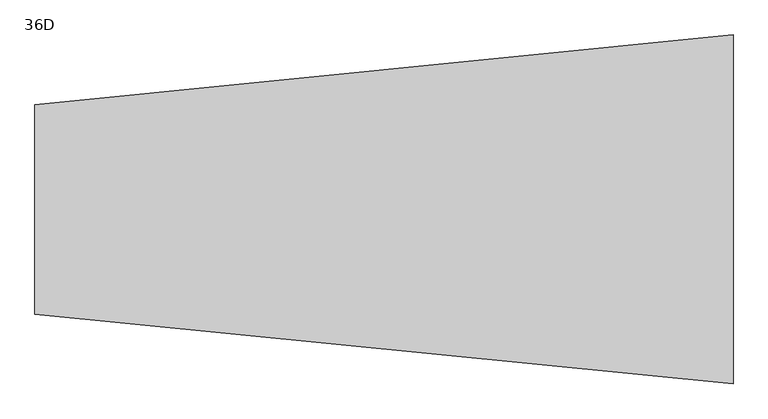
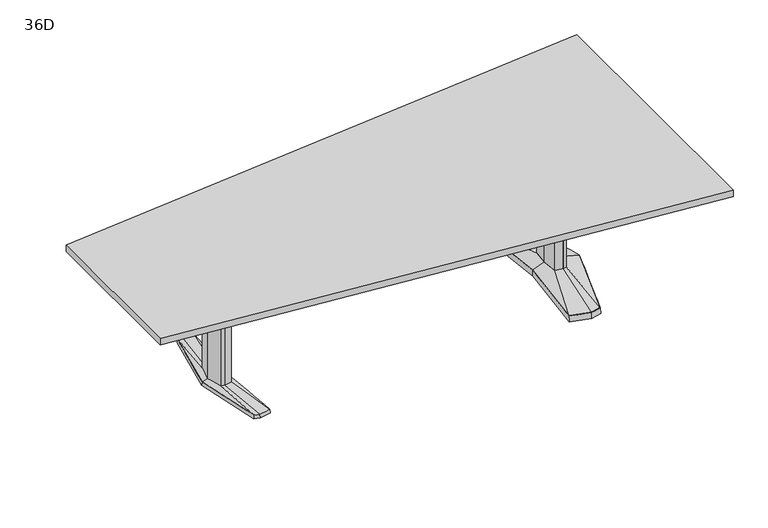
"""IFC4 building model written with IfcOpenShell, lengths in millimetres: furniture geometry, Coalesse_AM_Table_Conference_ETable2_Trapezoid_10ft_AluminiumBase : 36D."""

from ifc_helpers import new_model, si_unit, frame, origin, place, context, project, spatial, polyline, outline, extrude, faceted_brep, source, transform, mapped, element, save
from ifc_brep_helpers import plane_surface, spline_surface, advanced_brep


def furniture_36d_131f7e5c(model_context):
    return source(origin(), model_context, "Body", "SolidModel", [
        faceted_brep([(905.8306835, 455.5848221, 38.1), (796.2531277, 426.2263816, 38.1), (837.4163717, 0.0, 38.1), (796.2531277, -426.2263816, 38.1), (905.8306835, -455.5848221, 38.1), (961.9570396, -440.5478297, 38.1), (1099.2684269, 0.0, 38.1), (961.9570396, 440.5478297, 38.1), (905.8306754, 457.2283104, 3.175), (963.2124472, 441.8549756, 3.175), (1100.93125, 0.0, 3.175), (963.2124472, -441.8549756, 3.175), (905.8306754, -457.2283104, 3.175), (794.54375, -427.4118891, 3.175), (835.8214856, 0.0, 3.175), (794.54375, 427.4118891, 3.175), (909.420115, 428.3273875, 3.175), (804.3718228, 402.1057253, 3.175), (812.490518, 377.985069, 3.175), (913.0095466, 401.0699529, 3.175), (963.5691725, 387.524361, 3.175), (962.7631061, 414.0360954, 3.175), (909.420115, -428.3273875, 3.175), (962.7631061, -414.0360954, 3.175), (963.5691725, -387.524361, 3.175), (913.0095466, -401.0699529, 3.175), (812.490518, -377.985069, 3.175), (804.3718228, -402.1057253, 3.175), (1036.0153621, 0.0, 3.175), (1003.7459611, 120.4193755, 3.175), (955.0987222, 133.471665, 3.175), (875.2180526, 119.4176561, 3.175), (864.0868466, 0.0, 3.175), (875.2180526, -119.4176561, 3.175), (955.0987222, -133.471665, 3.175), (1003.7459611, -120.4193755, 3.175), (909.420115, 428.3273875, 0.0), (962.7631061, 414.0360954, 0.0), (963.5691725, 387.524361, 0.0), (913.0095466, 401.0699529, 0.0), (812.490518, 377.985069, 0.0), (804.3718228, 402.1057253, 0.0), (909.420115, -428.3273875, 0.0), (804.3718228, -402.1057253, 0.0), (812.490518, -377.985069, 0.0), (913.0095466, -401.0699529, 0.0), (963.5691725, -387.524361, 0.0), (962.7631061, -414.0360954, 0.0), (1036.0153621, 0.0, 0.0), (1003.7459611, -120.4193755, 0.0), (955.0987222, -133.471665, 0.0), (875.2180526, -119.4176561, 0.0), (864.0868466, 0.0, 0.0), (875.2180526, 119.4176561, 0.0), (955.0987222, 133.471665, 0.0), (1003.7459611, 120.4193755, 0.0)], [[[0, 1, 2, 3, 4, 5, 6, 7]], [[8, 9, 10, 11, 12, 13, 14, 15], [16, 17, 18, 19, 20, 21], [22, 23, 24, 25, 26, 27], [28, 29, 30, 31, 32, 33, 34, 35]], [[7, 9, 8, 0]], [[6, 10, 9, 7]], [[5, 11, 10, 6]], [[4, 12, 11, 5]], [[3, 13, 12, 4]], [[2, 14, 13, 3]], [[1, 15, 14, 2]], [[0, 8, 15, 1]], [[36, 37, 38, 39, 40, 41]], [[42, 43, 44, 45, 46, 47]], [[48, 49, 50, 51, 52, 53, 54, 55]], [[36, 16, 21, 37]], [[37, 21, 20, 38]], [[38, 20, 19, 39]], [[39, 19, 18, 40]], [[40, 18, 17, 41]], [[41, 17, 16, 36]], [[42, 22, 27, 43]], [[43, 27, 26, 44]], [[44, 26, 25, 45]], [[45, 25, 24, 46]], [[46, 24, 23, 47]], [[47, 23, 22, 42]], [[48, 28, 35, 49]], [[49, 35, 34, 50]], [[50, 34, 33, 51]], [[51, 33, 32, 52]], [[52, 32, 31, 53]], [[53, 31, 30, 54]], [[54, 30, 29, 55]], [[55, 29, 28, 48]]]),
        faceted_brep([(996.5710836, 0.0, 698.5), (972.6358546, 89.3188359, 698.5), (955.7824984, 93.8406728, 698.5), (953.3826511, 94.4845635, 698.5), (910.455146, 86.9320037, 698.5), (902.3520056, 0.0, 698.5), (910.455146, -86.9320037, 698.5), (953.3826511, -94.4845635, 698.5), (955.7824984, -93.8406728, 698.5), (972.6358546, -89.3188359, 698.5), (996.5710836, 0.0, 63.5), (972.6358546, -89.3188359, 63.5), (955.7824984, -93.8406728, 63.5), (953.3826511, -94.4845635, 63.5), (910.455146, -86.9320037, 63.5), (902.3520056, 0.0, 63.5), (910.455146, 86.9320037, 63.5), (953.3826511, 94.4845635, 63.5), (955.7824984, 93.8406728, 63.5), (972.6358546, 89.3188359, 63.5)], [[[0, 1, 2, 3, 4, 5, 6, 7, 8, 9]], [[10, 11, 12, 13, 14, 15, 16, 17, 18, 19]], [[9, 11, 10, 0]], [[8, 12, 11, 9]], [[7, 13, 12, 8]], [[6, 14, 13, 7]], [[5, 15, 14, 6]], [[4, 16, 15, 5]], [[3, 17, 16, 4]], [[2, 18, 17, 3]], [[1, 19, 18, 2]], [[0, 10, 19, 1]]]),
        advanced_brep(
        [(953.3826511, 94.4845635, 63.5), (910.455146, 86.9320037, 63.5), (902.3520056, 0.0, 63.5), (910.455146, -86.9320037, 63.5), (953.3826511, -94.4845635, 63.5), (972.6358546, -89.3188359, 63.5), (996.5710836, 0.0, 63.5), (972.6358546, 89.3188359, 63.5), (905.8306835, 455.5848221, 38.1), (961.9570396, 440.5478297, 38.1), (1099.2684269, 0.0, 38.1), (961.9570396, -440.5478297, 38.1), (905.8306835, -455.5848221, 38.1), (796.2531277, -426.2263816, 38.1), (837.4163717, 0.0, 38.1), (796.2531277, 426.2263816, 38.1)],
        [
            (0, 1),
            (1, 2),
            (2, 3),
            (3, 4),
            (4, 5),
            (5, 6),
            (6, 7),
            (7, 0),
            (8, 9),
            (9, 10),
            (10, 11),
            (11, 12),
            (12, 13),
            (13, 14),
            (14, 15),
            (15, 8),
            (8, 0),
            (7, 9),
            (6, 10),
            (5, 11),
            (4, 12),
            (3, 13),
            (2, 14),
            (1, 15),
        ],
        [
            plane_surface(frame((946.4837991, 0.0, 63.5), z_axis=(0.0, 0.0, 1.0), x_axis=(-0.25884244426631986, -0.9659195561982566, 0.0))),
            plane_surface(frame((908.0958125, 0.0, 38.1), z_axis=(0.0, 0.0, -1.0), x_axis=(-0.25884244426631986, -0.9659195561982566, 0.0))),
            spline_surface(1, 1, [[(905.8306835, 455.5848221, 38.1), (961.9570396, 440.5478297, 38.1)], [(953.3826511, 94.4845635, 63.5), (972.6358546, 89.3188359, 63.5)]], [2, 2], [2, 2], [0.0, 1.0], [0.0, 1.0]),
            spline_surface(1, 1, [[(961.9570396, 440.5478297, 38.1), (1099.2684269, 0.0, 38.1)], [(972.6358546, 89.3188359, 63.5), (996.5710836, 0.0, 63.5)]], [2, 2], [2, 2], [0.0, 1.0], [0.0, 1.0]),
            spline_surface(1, 1, [[(1099.2684269, 0.0, 38.1), (961.9570396, -440.5478297, 38.1)], [(996.5710836, 0.0, 63.5), (972.6358546, -89.3188359, 63.5)]], [2, 2], [2, 2], [0.0, 1.0], [0.0, 1.0]),
            spline_surface(1, 1, [[(961.9570396, -440.5478297, 38.1), (905.8306835, -455.5848221, 38.1)], [(972.6358546, -89.3188359, 63.5), (953.3826511, -94.4845635, 63.5)]], [2, 2], [2, 2], [0.0, 1.0], [0.0, 1.0]),
            spline_surface(1, 1, [[(905.8306835, -455.5848221, 38.1), (796.2531277, -426.2263816, 38.1)], [(953.3826511, -94.4845635, 63.5), (910.455146, -86.9320037, 63.5)]], [2, 2], [2, 2], [0.0, 1.0], [0.0, 1.0]),
            spline_surface(1, 1, [[(796.2531277, -426.2263816, 38.1), (837.4163717, 0.0, 38.1)], [(910.455146, -86.9320037, 63.5), (902.3520056, 0.0, 63.5)]], [2, 2], [2, 2], [0.0, 1.0], [0.0, 1.0]),
            spline_surface(1, 1, [[(837.4163717, 0.0, 38.1), (796.2531277, 426.2263816, 38.1)], [(902.3520056, 0.0, 63.5), (910.455146, 86.9320037, 63.5)]], [2, 2], [2, 2], [0.0, 1.0], [0.0, 1.0]),
            spline_surface(1, 1, [[(796.2531277, 426.2263816, 38.1), (905.8306835, 455.5848221, 38.1)], [(910.455146, 86.9320037, 63.5), (953.3826511, 94.4845635, 63.5)]], [2, 2], [2, 2], [0.0, 1.0], [0.0, 1.0]),
        ],
        [
            (0, [[1, 2, 3, 4, 5, 6, 7, 8]]),
            (1, [[9, 10, 11, 12, 13, 14, 15, 16]]),
            (2, [[17, -8, 18, -9]]),
            (3, [[-18, -7, 19, -10]]),
            (4, [[-19, -6, 20, -11]]),
            (5, [[-20, -5, 21, -12]]),
            (6, [[-21, -4, 22, -13]]),
            (7, [[-22, -3, 23, -14]]),
            (8, [[-23, -2, 24, -15]]),
            (9, [[-24, -1, -17, -16]]),
        ],
    ),
        advanced_brep(
        [(-917.2690971, -379.3768856, 25.4), (-951.3982754, -94.605478, 36.5125), (-970.6514743, -89.293702, 36.5125), (-946.9944136, -371.5332654, 25.4), (-854.1800038, -368.5071562, 25.4), (-908.4708501, -87.0529327, 36.5125), (-882.2577254, 0.3970149, 25.4), (-900.3551707, 0.0, 36.5125), (-854.1802502, 368.5172593, 25.4), (-908.4708501, 87.0529327, 36.5125), (-917.2689733, 379.3769183, 25.4), (-951.3982754, 94.605478, 36.5125), (-947.1722958, 371.4863276, 25.4), (-970.6514743, 89.293702, 36.5125), (-1023.9039163, 0.0003516, 25.4), (-994.5782751, 0.0, 36.5125), (-880.6656242, 0.3968871, 3.175), (-852.4875, -369.8264415, 3.175), (-917.3400504, -381.0, 3.175), (-948.3497317, -372.8174744, 3.175), (-1025.525, 0.0, 3.175), (-948.5280745, 372.7704151, 3.175), (-917.3400504, 381.0, 3.175), (-852.4875, 369.8367279, 3.175), (-952.0166764, 107.6121478, 3.175), (-981.0370973, 99.6056872, 3.175), (-1007.7270585, 0.0, 3.175), (-981.0370973, -99.6056872, 3.175), (-952.0166764, -107.6121478, 3.175), (-896.7252951, -97.8843184, 3.175), (-887.5998387, 0.0, 3.175), (-896.7252951, 97.8843184, 3.175), (-915.8474312, 346.9152841, 3.175), (-949.9732026, 337.9105158, 3.175), (-951.0913109, 324.4807859, 3.175), (-915.2788144, 333.9306305, 3.175), (-862.6077418, 324.8641942, 3.175), (-860.1998871, 337.3364985, 3.175), (-915.8474312, -346.9152841, 3.175), (-860.1998871, -337.3364985, 3.175), (-862.6077418, -324.8641942, 3.175), (-915.2788144, -333.9306305, 3.175), (-951.0913109, -324.4807859, 3.175), (-949.9732026, -337.9105158, 3.175), (-952.0166764, 107.6121478, 0.0), (-896.7252951, 97.8843184, 0.0), (-887.5998387, 0.0, 0.0), (-896.7252951, -97.8843184, 0.0), (-952.0166764, -107.6121478, 0.0), (-981.0370973, -99.6056872, 0.0), (-1007.7270585, 0.0, 0.0), (-981.0370973, 99.6056872, 0.0), (-915.8474312, 346.9152841, 0.0), (-860.1998871, 337.3364985, 0.0), (-862.6077418, 324.8641942, 0.0), (-915.2788144, 333.9306305, 0.0), (-951.0913109, 324.4807859, 0.0), (-949.9732026, 337.9105158, 0.0), (-915.8474312, -346.9152841, 0.0), (-949.9732026, -337.9105158, 0.0), (-951.0913109, -324.4807859, 0.0), (-915.2788144, -333.9306305, 0.0), (-862.6077418, -324.8641942, 0.0), (-860.1998871, -337.3364985, 0.0), (-970.6514743, 89.293702, 698.5), (-994.5782751, 0.0, 698.5), (-970.6514743, -89.293702, 698.5), (-951.3982754, -94.605478, 698.5), (-908.4708501, -87.0529327, 698.5), (-900.3551707, 0.0, 698.5), (-908.4708501, 87.0529327, 698.5), (-951.3982754, 94.605478, 698.5)],
        [
            (0, 1),
            (1, 2),
            (2, 3),
            (3, 0),
            (0, 4),
            (4, 5),
            (5, 1),
            (4, 6),
            (6, 7),
            (7, 5),
            (6, 8),
            (8, 9),
            (9, 7),
            (8, 10),
            (10, 11),
            (11, 9),
            (10, 12),
            (12, 13),
            (13, 11),
            (12, 14),
            (14, 15),
            (15, 13),
            (2, 15),
            (14, 3),
            (16, 17),
            (17, 18),
            (18, 19),
            (19, 20),
            (20, 21),
            (21, 22),
            (22, 23),
            (23, 16),
            (24, 25),
            (25, 26),
            (26, 27),
            (27, 28),
            (28, 29),
            (29, 30),
            (30, 31),
            (31, 24),
            (32, 33),
            (33, 34),
            (34, 35),
            (35, 36),
            (36, 37),
            (37, 32),
            (38, 39),
            (39, 40),
            (40, 41),
            (41, 42),
            (42, 43),
            (43, 38),
            (23, 8),
            (6, 16),
            (22, 10),
            (21, 12),
            (20, 14),
            (19, 3),
            (18, 0),
            (17, 4),
            (44, 45),
            (45, 46),
            (46, 47),
            (47, 48),
            (48, 49),
            (49, 50),
            (50, 51),
            (51, 44),
            (52, 53),
            (53, 54),
            (54, 55),
            (55, 56),
            (56, 57),
            (57, 52),
            (58, 59),
            (59, 60),
            (60, 61),
            (61, 62),
            (62, 63),
            (63, 58),
            (51, 25),
            (24, 44),
            (50, 26),
            (49, 27),
            (48, 28),
            (47, 29),
            (46, 30),
            (45, 31),
            (57, 33),
            (32, 52),
            (56, 34),
            (55, 35),
            (54, 36),
            (53, 37),
            (63, 39),
            (38, 58),
            (62, 40),
            (61, 41),
            (60, 42),
            (59, 43),
            (64, 65),
            (65, 66),
            (66, 67),
            (67, 68),
            (68, 69),
            (69, 70),
            (70, 71),
            (71, 64),
            (64, 13),
            (15, 65),
            (2, 66),
            (1, 67),
            (5, 68),
            (7, 69),
            (9, 70),
            (11, 71),
        ],
        [
            spline_surface(1, 1, [[(-946.9944136, -371.5332654, 25.4), (-970.6514743, -89.293702, 36.5125)], [(-917.2690971, -379.3768856, 25.4), (-951.3982754, -94.605478, 36.5125)]], [2, 2], [2, 2], [0.0, 1.0], [0.0, 1.0]),
            spline_surface(1, 1, [[(-917.2690971, -379.3768856, 25.4), (-951.3982754, -94.605478, 36.5125)], [(-854.1800038, -368.5071562, 25.4), (-908.4708501, -87.0529327, 36.5125)]], [2, 2], [2, 2], [0.0, 1.0], [0.0, 1.0]),
            spline_surface(1, 1, [[(-854.1800038, -368.5071562, 25.4), (-908.4708501, -87.0529327, 36.5125)], [(-882.2577254, 0.3970149, 25.4), (-900.3551707, 0.0, 36.5125)]], [2, 2], [2, 2], [0.0, 1.0], [0.0, 1.0]),
            spline_surface(1, 1, [[(-882.2577254, 0.3970149, 25.4), (-900.3551707, 0.0, 36.5125)], [(-854.1802502, 368.5172593, 25.4), (-908.4708501, 87.0529327, 36.5125)]], [2, 2], [2, 2], [0.0, 1.0], [0.0, 1.0]),
            spline_surface(1, 1, [[(-854.1802502, 368.5172593, 25.4), (-908.4708501, 87.0529327, 36.5125)], [(-917.2689733, 379.3769183, 25.4), (-951.3982754, 94.605478, 36.5125)]], [2, 2], [2, 2], [0.0, 1.0], [0.0, 1.0]),
            spline_surface(1, 1, [[(-917.2689733, 379.3769183, 25.4), (-951.3982754, 94.605478, 36.5125)], [(-947.1722958, 371.4863276, 25.4), (-970.6514743, 89.293702, 36.5125)]], [2, 2], [2, 2], [0.0, 1.0], [0.0, 1.0]),
            spline_surface(1, 1, [[(-947.1722958, 371.4863276, 25.4), (-970.6514743, 89.293702, 36.5125)], [(-1023.9039163, 0.0003516, 25.4), (-994.5782751, 0.0, 36.5125)]], [2, 2], [2, 2], [0.0, 1.0], [0.0, 1.0]),
            spline_surface(1, 1, [[(-1023.9039163, 0.0003516, 25.4), (-994.5782751, 0.0, 36.5125)], [(-946.9944136, -371.5332654, 25.4), (-970.6514743, -89.293702, 36.5125)]], [2, 2], [2, 2], [0.0, 1.0], [0.0, 1.0]),
            plane_surface(frame((-917.8404414, 0.0450143, 3.175), z_axis=(0.0, 0.0, -1.0), x_axis=(0.9669048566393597, -0.2551372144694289, 0.0))),
            plane_surface(frame((-866.5765621, 185.1168075, 3.175), z_axis=(0.9945699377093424, -0.07585840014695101, 0.0712470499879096), x_axis=(0.07605167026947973, 0.9971038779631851, 0.0))),
            plane_surface(frame((-884.9137752, 375.418364, 3.175), z_axis=(0.1692071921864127, 0.9830019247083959, 0.07124704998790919), x_axis=(-0.985506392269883, 0.16963829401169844, 0.0))),
            plane_surface(frame((-932.9340624, 376.8852076, 3.175), z_axis=(-0.2544888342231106, 0.9644476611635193, 0.07124704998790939), x_axis=(-0.9669048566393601, -0.25513721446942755, 0.0))),
            plane_surface(frame((-987.0265372, 186.3852076, 3.175), z_axis=(-0.9768383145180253, 0.2017690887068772, 0.07124704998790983), x_axis=(-0.20228315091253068, -0.9793270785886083, 0.0))),
            plane_surface(frame((-986.9373658, -186.4087372, 3.175), z_axis=(-0.9767507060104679, -0.20219276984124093, 0.07124704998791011), x_axis=(0.2027079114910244, -0.9792392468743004, 0.0))),
            plane_surface(frame((-932.844891, -376.9087372, 3.175), z_axis=(-0.2544888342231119, -0.9644476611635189, 0.0712470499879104), x_axis=(0.9669048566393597, -0.2551372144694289, 0.0))),
            plane_surface(frame((-884.9137752, -375.4132207, 3.175), z_axis=(0.16935861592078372, -0.982975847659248, 0.07124704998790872), x_axis=(0.9854802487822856, 0.16979010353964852, 0.0))),
            plane_surface(frame((-866.5765621, -184.7147772, 3.175), z_axis=(0.9945820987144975, 0.07569878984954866, 0.07124704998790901), x_axis=(-0.07589165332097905, 0.9971160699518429, 0.0))),
            plane_surface(frame((-954.7758979, 106.8509046, 0.0), z_axis=(0.0, 0.0, -1.0000000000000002), x_axis=(0.9639855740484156, 0.26595453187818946, 0.0))),
            plane_surface(frame((-952.0166764, 107.6121478, 3.175), z_axis=(-0.26595453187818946, 0.9639855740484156, 0.0), x_axis=(0.0, 0.0, -1.0))),
            plane_surface(frame((-981.0370973, 99.6056872, 3.175), z_axis=(-0.9659241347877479, 0.2588253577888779, 0.0), x_axis=(0.0, 0.0, -1.0))),
            plane_surface(frame((-1007.7270585, 0.0, 3.175), z_axis=(-0.9659241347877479, -0.2588253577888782, 0.0), x_axis=(0.0, 0.0, -1.0))),
            plane_surface(frame((-981.0370973, -99.6056872, 3.175), z_axis=(-0.26595453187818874, -0.9639855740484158, 0.0), x_axis=(0.0, 0.0, -1.0))),
            plane_surface(frame((-952.0166764, -107.6121478, 3.175), z_axis=(0.17327617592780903, -0.9848732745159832, 0.0), x_axis=(0.0, 0.0, -1.0))),
            plane_surface(frame((-896.7252951, -97.8843184, 3.175), z_axis=(0.9956824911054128, -0.0928244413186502, 0.0), x_axis=(0.0, 0.0, -1.0))),
            plane_surface(frame((-887.5998387, 0.0, 3.175), z_axis=(0.9956824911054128, 0.09282444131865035, 0.0), x_axis=(0.0, 0.0, -1.0))),
            plane_surface(frame((-896.7252951, 97.8843184, 3.175), z_axis=(0.17327617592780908, 0.984873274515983, 0.0), x_axis=(0.0, 0.0, -1.0))),
            plane_surface(frame((-915.8474312, 346.9152841, 3.175), z_axis=(-0.25513721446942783, 0.9669048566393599, 0.0), x_axis=(0.0, 0.0, -1.0))),
            plane_surface(frame((-949.9732026, 337.9105158, 3.175), z_axis=(-0.9965521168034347, 0.0829691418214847, 0.0), x_axis=(0.0, 0.0, -1.0))),
            plane_surface(frame((-951.0913109, 324.4807859, 3.175), z_axis=(0.25513721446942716, -0.9669048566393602, 0.0), x_axis=(0.0, 0.0, -1.0))),
            plane_surface(frame((-915.2788144, 333.9306305, 3.175), z_axis=(-0.16963829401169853, -0.985506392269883, 0.0), x_axis=(0.0, 0.0, -1.0))),
            plane_surface(frame((-862.6077418, 324.8641942, 3.175), z_axis=(0.9818699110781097, -0.18955600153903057, 0.0), x_axis=(0.0, 0.0, -1.0))),
            plane_surface(frame((-860.1998871, 337.3364985, 3.175), z_axis=(0.16963829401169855, 0.9855063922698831, 0.0), x_axis=(0.0, 0.0, -1.0))),
            plane_surface(frame((-915.8474312, -346.9152841, 3.175), z_axis=(0.1696382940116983, -0.9855063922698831, 0.0), x_axis=(0.0, 0.0, -1.0))),
            plane_surface(frame((-860.1998871, -337.3364985, 3.175), z_axis=(0.9818699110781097, 0.18955600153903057, 0.0), x_axis=(0.0, 0.0, -1.0))),
            plane_surface(frame((-862.6077418, -324.8641942, 3.175), z_axis=(-0.16963829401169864, 0.985506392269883, 0.0), x_axis=(0.0, 0.0, -1.0))),
            plane_surface(frame((-915.2788144, -333.9306305, 3.175), z_axis=(0.2551372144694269, 0.9669048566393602, 0.0), x_axis=(0.0, 0.0, -1.0))),
            plane_surface(frame((-951.0913109, -324.4807859, 3.175), z_axis=(-0.9965521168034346, -0.0829691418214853, 0.0), x_axis=(0.0, 0.0, -1.0))),
            plane_surface(frame((-949.9732026, -337.9105158, 3.175), z_axis=(-0.2551372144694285, -0.9669048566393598, 0.0), x_axis=(0.0, 0.0, -1.0))),
            plane_surface(frame((-994.5782751, 0.0, 698.5), z_axis=(0.0, 0.0, 1.0), x_axis=(-0.25882535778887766, -0.965924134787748, 0.0))),
            plane_surface(frame((-970.6514743, 89.293702, 698.5), z_axis=(-0.965924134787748, 0.25882535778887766, 0.0), x_axis=(0.0, 0.0, -1.0))),
            plane_surface(frame((-994.5782751, 0.0, 698.5), z_axis=(-0.965924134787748, -0.2588253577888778, 0.0), x_axis=(0.0, 0.0, -1.0))),
            plane_surface(frame((-970.6514743, -89.293702, 698.5), z_axis=(-0.2659545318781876, -0.963985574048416, 0.0), x_axis=(0.0, 0.0, -1.0))),
            plane_surface(frame((-951.3982754, -94.605478, 698.5), z_axis=(0.1732761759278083, -0.9848732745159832, 0.0), x_axis=(0.0, 0.0, -1.0))),
            plane_surface(frame((-908.4708501, -87.0529327, 698.5), z_axis=(0.9956824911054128, -0.0928244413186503, 0.0), x_axis=(0.0, 0.0, -1.0))),
            plane_surface(frame((-900.3551707, 0.0, 698.5), z_axis=(0.9956824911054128, 0.09282444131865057, 0.0), x_axis=(0.0, 0.0, -1.0))),
            plane_surface(frame((-908.4708501, 87.0529327, 698.5), z_axis=(0.17327617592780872, 0.9848732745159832, 0.0), x_axis=(0.0, 0.0, -1.0))),
            plane_surface(frame((-951.3982754, 94.605478, 698.5), z_axis=(-0.26595453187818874, 0.9639855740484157, 0.0), x_axis=(0.0, 0.0, -1.0))),
        ],
        [
            (0, [[1, 2, 3, 4]]),
            (1, [[-1, 5, 6, 7]]),
            (2, [[-6, 8, 9, 10]]),
            (3, [[-9, 11, 12, 13]]),
            (4, [[-12, 14, 15, 16]]),
            (5, [[-15, 17, 18, 19]]),
            (6, [[-18, 20, 21, 22]]),
            (7, [[-3, 23, -21, 24]]),
            (8, [[25, 26, 27, 28, 29, 30, 31, 32], [33, 34, 35, 36, 37, 38, 39, 40], [41, 42, 43, 44, 45, 46], [47, 48, 49, 50, 51, 52]]),
            (9, [[-32, 53, -11, 54]]),
            (10, [[-31, 55, -14, -53]]),
            (11, [[-30, 56, -17, -55]]),
            (12, [[-29, 57, -20, -56]]),
            (13, [[-28, 58, -24, -57]]),
            (14, [[-27, 59, -4, -58]]),
            (15, [[-26, 60, -5, -59]]),
            (16, [[-25, -54, -8, -60]]),
            (17, [[61, 62, 63, 64, 65, 66, 67, 68]]),
            (17, [[69, 70, 71, 72, 73, 74]]),
            (17, [[75, 76, 77, 78, 79, 80]]),
            (18, [[-68, 81, -33, 82]]),
            (19, [[-67, 83, -34, -81]]),
            (20, [[-66, 84, -35, -83]]),
            (21, [[-65, 85, -36, -84]]),
            (22, [[-64, 86, -37, -85]]),
            (23, [[-63, 87, -38, -86]]),
            (24, [[-62, 88, -39, -87]]),
            (25, [[-61, -82, -40, -88]]),
            (26, [[-74, 89, -41, 90]]),
            (27, [[-73, 91, -42, -89]]),
            (28, [[-72, 92, -43, -91]]),
            (29, [[-71, 93, -44, -92]]),
            (30, [[-70, 94, -45, -93]]),
            (31, [[-69, -90, -46, -94]]),
            (32, [[-80, 95, -47, 96]]),
            (33, [[-79, 97, -48, -95]]),
            (34, [[-78, 98, -49, -97]]),
            (35, [[-77, 99, -50, -98]]),
            (36, [[-76, 100, -51, -99]]),
            (37, [[-75, -96, -52, -100]]),
            (38, [[101, 102, 103, 104, 105, 106, 107, 108]]),
            (39, [[-101, 109, -22, 110]]),
            (40, [[-102, -110, -23, 111]]),
            (41, [[-103, -111, -2, 112]]),
            (42, [[-104, -112, -7, 113]]),
            (43, [[-105, -113, -10, 114]]),
            (44, [[-106, -114, -13, 115]]),
            (45, [[-107, -115, -16, 116]]),
            (46, [[-108, -116, -19, -109]]),
        ],
    ),
        extrude(outline(polyline([(1524.0, 762.0), (1524.0, -762.0), (-1524.0, -457.2), (-1524.0, 457.2), (1524.0, 762.0)])), frame((0.0, 0.0, 698.5), z_axis=(0.0, 0.0, 1.0), x_axis=(1.0, 0.0, 0.0)), (0.0, 0.0, 1.0), 38.1),
        extrude(outline(polyline([(96.8375, 698.5), (103.1875, 698.5), (103.1875, 476.25), (-103.1875, 476.25), (-103.1875, 698.5), (-96.8375, 698.5), (-96.8375, 482.6), (96.8375, 482.6), (96.8375, 698.5)])), frame((-900.1125, 0.0, 0.0), z_axis=(1.0, 0.0, 0.0), x_axis=(0.0, 1.0, 0.0)), (0.0, 0.0, 1.0), 1802.60625),
    ])


if __name__ == "__main__":
    model = new_model("IFC4")
    model_context = context("Model", 3, world=origin())
    ifc_project = project(units=[si_unit("LENGTHUNIT", "METRE", prefix="MILLI")], contexts=[model_context])
    site = spatial("IfcSite", under=ifc_project)
    building = spatial("IfcBuilding", under=site)
    placement = place(None, origin())
    furniture_36d_shape = furniture_36d_131f7e5c(model_context)
    element("IfcFurniture", 1, ObjectType="Coalesse_AM_Table_Conference_ETable2_Trapezoid_10ft_AluminiumBase : 36D", at=placement, inside=building, context=model_context, shape_type="MappedRepresentation", body=[
        mapped(furniture_36d_shape, transform((0.0, 0.0, 0.0), x_axis=(1.0, 0.0, 0.0), y_axis=(0.0, 1.0, 0.0), z_axis=(0.0, 0.0, 1.0))),
    ])
    save(model, "model.ifc")
